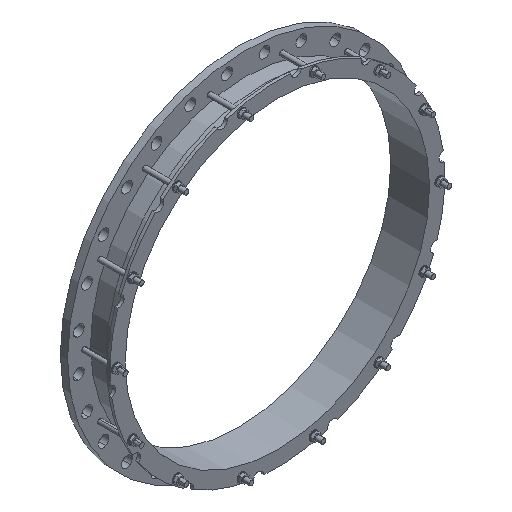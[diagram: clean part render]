
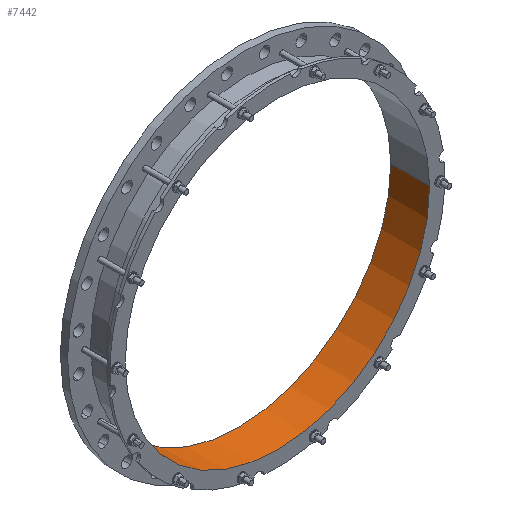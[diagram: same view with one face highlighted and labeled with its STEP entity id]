
A CAD part, isometric view. The second image highlights one B-rep face of the part: STEP entity #7442.
In plain terms, the highlighted cylindrical face has radius 525 mm (diameter 1050 mm), a partial arc.
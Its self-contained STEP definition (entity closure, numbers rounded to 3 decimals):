
#7=CARTESIAN_POINT('',(0.,25.,0.));
#8=DIRECTION('',(0.,1.,0.));
#9=DIRECTION('',(1.,0.,0.));
#10=AXIS2_PLACEMENT_3D('',#7,#8,#9);
#2957=CARTESIAN_POINT('',(0.,-109.,0.));
#2958=DIRECTION('',(0.,1.,0.));
#2959=DIRECTION('',(1.,0.,0.));
#2960=AXIS2_PLACEMENT_3D('',#2957,#2958,#2959);
#2962=DIRECTION('',(0.,1.,0.));
#2963=VECTOR('',#2962,134.);
#2964=CARTESIAN_POINT('',(525.,-109.,0.));
#2965=LINE('',#2964,#2963);
#2966=DIRECTION('',(0.,1.,0.));
#2967=VECTOR('',#2966,134.);
#2968=CARTESIAN_POINT('',(-525.,-109.,0.));
#2969=LINE('',#2968,#2967);
#5152=CARTESIAN_POINT('',(525.,-109.,0.));
#5153=CARTESIAN_POINT('',(525.,25.,0.));
#5154=VERTEX_POINT('',#5152);
#5155=VERTEX_POINT('',#5153);
#5160=CARTESIAN_POINT('',(-525.,-109.,0.));
#5161=CARTESIAN_POINT('',(-525.,25.,0.));
#5162=VERTEX_POINT('',#5160);
#5163=VERTEX_POINT('',#5161);
#7429=CARTESIAN_POINT('',(0.,-115.7,0.));
#7430=DIRECTION('',(0.,1.,0.));
#7431=DIRECTION('',(-1.,0.,0.));
#7432=AXIS2_PLACEMENT_3D('',#7429,#7430,#7431);
#7433=CYLINDRICAL_SURFACE('',#7432,525.);
#7435=ORIENTED_EDGE('',*,*,#7434,.F.);
#7436=ORIENTED_EDGE('',*,*,#7422,.T.);
#7438=ORIENTED_EDGE('',*,*,#7437,.T.);
#7439=ORIENTED_EDGE('',*,*,#6221,.F.);
#7440=EDGE_LOOP('',(#7435,#7436,#7438,#7439));
#7441=FACE_OUTER_BOUND('',#7440,.F.);
#7442=ADVANCED_FACE('',(#7441),#7433,.F.);
#11=CIRCLE('',#10,525.);
#2961=CIRCLE('',#2960,525.);
#6221=EDGE_CURVE('',#5155,#5163,#11,.T.);
#7422=EDGE_CURVE('',#5154,#5162,#2961,.T.);
#7434=EDGE_CURVE('',#5154,#5155,#2965,.T.);
#7437=EDGE_CURVE('',#5162,#5163,#2969,.T.);
